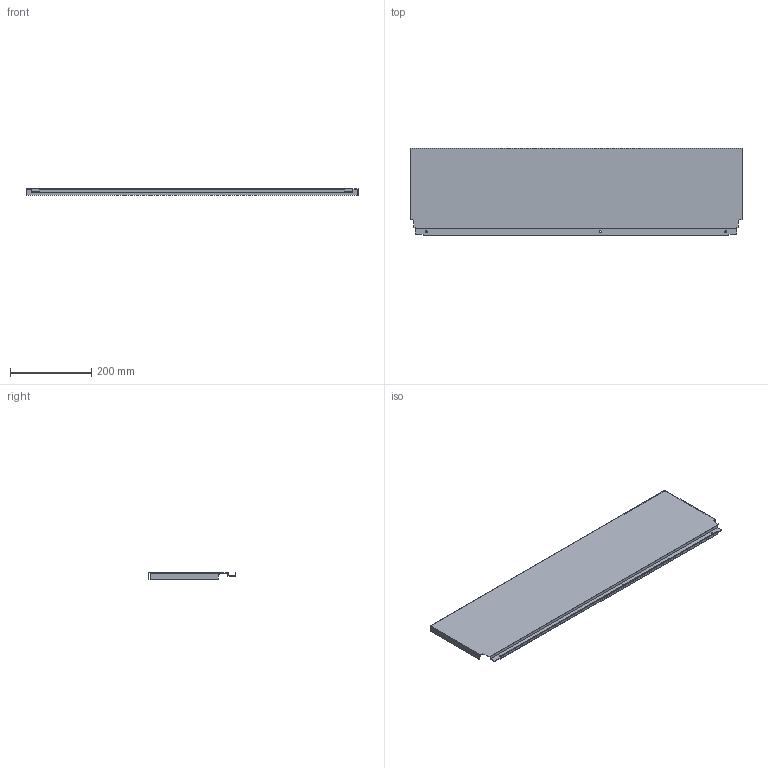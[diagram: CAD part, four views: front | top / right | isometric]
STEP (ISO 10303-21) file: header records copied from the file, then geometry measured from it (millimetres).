
FILE_DESCRIPTION (( 'STEP AP214' ), '1' );
FILE_NAME ('_DWD_XP Stahlrückwand_H214_KAB900_S16.step', '2010-07-08T13:02:52', ( 'grass' ), ( '' ), 'SwSTEP 2.0', 'SolidWorks 2010', '' );
FILE_SCHEMA (( 'AUTOMOTIVE_DESIGN' ));
Length unit declared in the file: millimetre
Products named in the file (1): _DWD_XP Stahlrückwand_H214_KAB900_S16
Bounding box: 817 x 214.58 x 16 mm (x, y, z)
Volume: 193905 mm3; surface area: 408685 mm2
Topology: 1 solids, 1 shells, 46 faces, 132 edges, 88 vertices
Faces by surface type: plane 40, cylinder 6
Entity records: 1534 total; most frequent: CARTESIAN_POINT 267, ORIENTED_EDGE 264, DIRECTION 238, EDGE_CURVE 132, LINE 120, VECTOR 120, VERTEX_POINT 88, AXIS2_PLACEMENT_3D 59
